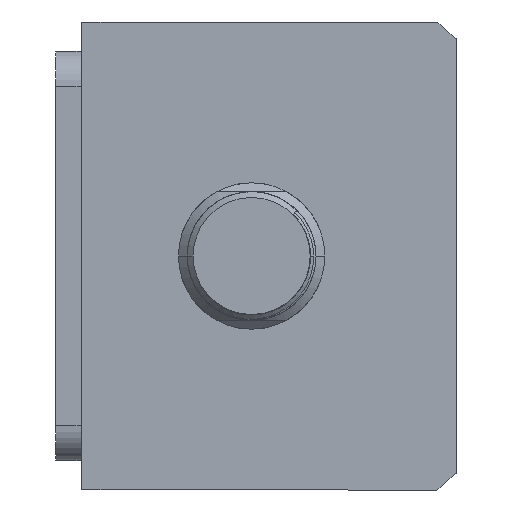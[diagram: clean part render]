
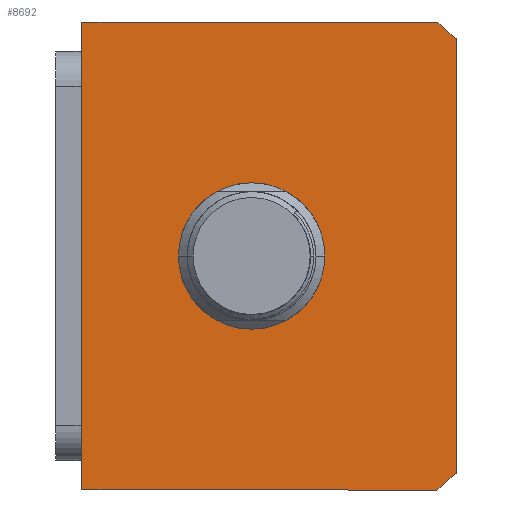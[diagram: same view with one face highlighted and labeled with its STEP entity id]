
A CAD part, front view. The second image highlights one B-rep face of the part: STEP entity #8692.
In plain terms, the highlighted planar face has unit normal (0, -1, 0) as drawn and (0, 0, -1) by its records, which use the part's own axes.
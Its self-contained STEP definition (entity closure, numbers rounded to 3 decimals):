
#158 = VERTEX_POINT ( 'NONE', #2821 ) ;
#758 = EDGE_CURVE ( 'NONE', #3351, #4657, #5494, .T. ) ;
#789 = DIRECTION ( 'NONE',  ( 0., 0., 1. ) ) ;
#936 = EDGE_CURVE ( 'NONE', #16433, #7373, #2858, .T. ) ;
#1169 = CARTESIAN_POINT ( 'NONE',  ( -40., -28.639, 0. ) ) ;
#1230 = ORIENTED_EDGE ( 'NONE', *, *, #5529, .F. ) ;
#1325 = CARTESIAN_POINT ( 'NONE',  ( 40., 32., 0. ) ) ;
#1531 = DIRECTION ( 'NONE',  ( 0., 0., 1. ) ) ;
#1532 = AXIS2_PLACEMENT_3D ( 'NONE', #6925, #16508, #8312 ) ;
#2248 = DIRECTION ( 'NONE',  ( 0., 0., 1. ) ) ;
#2487 = ORIENTED_EDGE ( 'NONE', *, *, #6237, .F. ) ;
#2499 = CARTESIAN_POINT ( 'NONE',  ( 12.5, 3., 0. ) ) ;
#2821 = CARTESIAN_POINT ( 'NONE',  ( 37.094, -32., 0. ) ) ;
#2858 = CIRCLE ( 'NONE', #1532, 51. ) ;
#3351 = VERTEX_POINT ( 'NONE', #2499 ) ;
#3690 = AXIS2_PLACEMENT_3D ( 'NONE', #8999, #789, #10372 ) ;
#3716 = ORIENTED_EDGE ( 'NONE', *, *, #17039, .F. ) ;
#3806 = AXIS2_PLACEMENT_3D ( 'NONE', #9085, #2248, #11843 ) ;
#4078 = FACE_BOUND ( 'NONE', #6823, .T. ) ;
#4108 = CARTESIAN_POINT ( 'NONE',  ( 0., 3., 0. ) ) ;
#4657 = VERTEX_POINT ( 'NONE', #5599 ) ;
#4728 = VECTOR ( 'NONE', #5436, 1000. ) ;
#5048 = DIRECTION ( 'NONE',  ( 0., -1., 0. ) ) ;
#5106 = VERTEX_POINT ( 'NONE', #16094 ) ;
#5436 = DIRECTION ( 'NONE',  ( -1., 0., 0. ) ) ;
#5492 = DIRECTION ( 'NONE',  ( 1., 0., 0. ) ) ;
#5494 = CIRCLE ( 'NONE', #3690, 12.5 ) ;
#5529 = EDGE_CURVE ( 'NONE', #158, #14230, #9521, .T. ) ;
#5599 = CARTESIAN_POINT ( 'NONE',  ( -12.5, 3., 0. ) ) ;
#6015 = VECTOR ( 'NONE', #5048, 1000. ) ;
#6030 = CARTESIAN_POINT ( 'NONE',  ( 40., -28.639, 0. ) ) ;
#6065 = VECTOR ( 'NONE', #15090, 1000. ) ;
#6237 = EDGE_CURVE ( 'NONE', #7373, #158, #12079, .T. ) ;
#6559 = EDGE_CURVE ( 'NONE', #14230, #5106, #13402, .T. ) ;
#6823 = EDGE_LOOP ( 'NONE', ( #7129, #8012 ) ) ;
#6925 = CARTESIAN_POINT ( 'NONE',  ( 0., 3., 0. ) ) ;
#7129 = ORIENTED_EDGE ( 'NONE', *, *, #758, .T. ) ;
#7181 = VERTEX_POINT ( 'NONE', #16528 ) ;
#7373 = VERTEX_POINT ( 'NONE', #15753 ) ;
#7505 = DIRECTION ( 'NONE',  ( 1., 0., 0. ) ) ;
#7973 = LINE ( 'NONE', #15012, #4728 ) ;
#8009 = VECTOR ( 'NONE', #7505, 1000. ) ;
#8012 = ORIENTED_EDGE ( 'NONE', *, *, #9123, .T. ) ;
#8312 = DIRECTION ( 'NONE',  ( 1., 0., 0. ) ) ;
#8692 = ADVANCED_FACE ( 'NONE', ( #4078, #14547 ), #10464, .F. ) ;
#8913 = CARTESIAN_POINT ( 'NONE',  ( -40., 32., 0. ) ) ;
#8999 = CARTESIAN_POINT ( 'NONE',  ( 0., 3., 0. ) ) ;
#9085 = CARTESIAN_POINT ( 'NONE',  ( 0., 0., 0. ) ) ;
#9123 = EDGE_CURVE ( 'NONE', #4657, #3351, #13503, .T. ) ;
#9230 = AXIS2_PLACEMENT_3D ( 'NONE', #4108, #13700, #5492 ) ;
#9521 = CIRCLE ( 'NONE', #9230, 51. ) ;
#9726 = CARTESIAN_POINT ( 'NONE',  ( 0., 3., 0. ) ) ;
#10372 = DIRECTION ( 'NONE',  ( 1., 0., 0. ) ) ;
#10464 = PLANE ( 'NONE',  #3806 ) ;
#11119 = DIRECTION ( 'NONE',  ( 1., 0., 0. ) ) ;
#11550 = EDGE_LOOP ( 'NONE', ( #15687, #13386, #3716, #15099, #1230, #2487 ) ) ;
#11843 = DIRECTION ( 'NONE',  ( 1., 0., 0. ) ) ;
#12079 = LINE ( 'NONE', #13152, #8009 ) ;
#13152 = CARTESIAN_POINT ( 'NONE',  ( -40., -32., 0. ) ) ;
#13386 = ORIENTED_EDGE ( 'NONE', *, *, #16790, .F. ) ;
#13402 = LINE ( 'NONE', #1325, #6065 ) ;
#13503 = CIRCLE ( 'NONE', #13596, 12.5 ) ;
#13596 = AXIS2_PLACEMENT_3D ( 'NONE', #9726, #1531, #11119 ) ;
#13700 = DIRECTION ( 'NONE',  ( 0., 0., 1. ) ) ;
#13789 = LINE ( 'NONE', #8913, #6015 ) ;
#14230 = VERTEX_POINT ( 'NONE', #6030 ) ;
#14547 = FACE_OUTER_BOUND ( 'NONE', #11550, .T. ) ;
#15012 = CARTESIAN_POINT ( 'NONE',  ( -40., 32., 0. ) ) ;
#15090 = DIRECTION ( 'NONE',  ( 0., 1., 0. ) ) ;
#15099 = ORIENTED_EDGE ( 'NONE', *, *, #6559, .F. ) ;
#15687 = ORIENTED_EDGE ( 'NONE', *, *, #936, .F. ) ;
#15753 = CARTESIAN_POINT ( 'NONE',  ( -37.094, -32., 0. ) ) ;
#16094 = CARTESIAN_POINT ( 'NONE',  ( 40., 32., 0. ) ) ;
#16433 = VERTEX_POINT ( 'NONE', #1169 ) ;
#16508 = DIRECTION ( 'NONE',  ( 0., 0., 1. ) ) ;
#16528 = CARTESIAN_POINT ( 'NONE',  ( -40., 32., 0. ) ) ;
#16790 = EDGE_CURVE ( 'NONE', #7181, #16433, #13789, .T. ) ;
#17039 = EDGE_CURVE ( 'NONE', #5106, #7181, #7973, .T. ) ;
